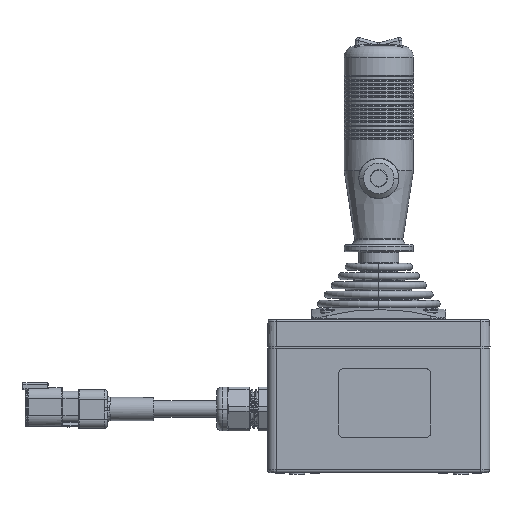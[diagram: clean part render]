
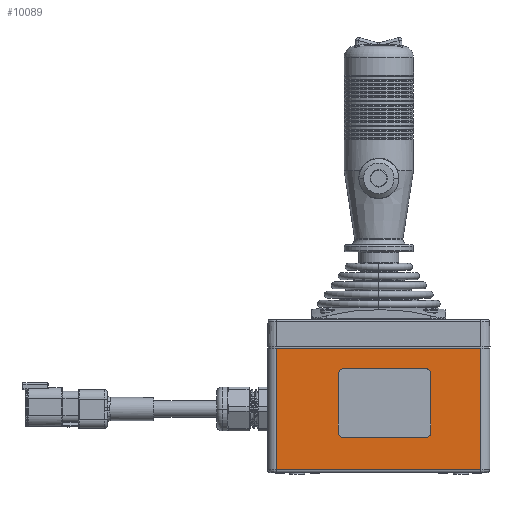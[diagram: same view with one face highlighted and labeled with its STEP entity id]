
A CAD part, front view. The second image highlights one B-rep face of the part: STEP entity #10089.
In plain terms, the highlighted planar face has unit normal (0, -1, 0).
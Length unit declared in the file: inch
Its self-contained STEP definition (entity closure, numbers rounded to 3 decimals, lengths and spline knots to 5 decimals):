
#1652 = LINE ( 'NONE', #44351, #2007 ) ;
#2007 = VECTOR ( 'NONE', #43699, 39.37008 ) ;
#3325 = EDGE_LOOP ( 'NONE', ( #42307, #30366, #5459, #36251 ) ) ;
#5459 = ORIENTED_EDGE ( 'NONE', *, *, #25320, .F. ) ;
#10046 = CARTESIAN_POINT ( 'NONE',  ( -2.20472, -2.44094, -2.69685 ) ) ;
#10089 = ADVANCED_FACE ( 'Defeatured_0_192', ( #14342 ), #33005, .F. ) ;
#10281 = CARTESIAN_POINT ( 'NONE',  ( -2.20472, -2.44094, -0.06693 ) ) ;
#12106 = CARTESIAN_POINT ( 'NONE',  ( 2.20472, -2.44094, 0. ) ) ;
#12494 = DIRECTION ( 'NONE',  ( 0., 0., -1. ) ) ;
#14326 = VERTEX_POINT ( 'NONE', #27247 ) ;
#14342 = FACE_OUTER_BOUND ( 'NONE', #3325, .T. ) ;
#15074 = LINE ( 'NONE', #19550, #30347 ) ;
#19540 = DIRECTION ( 'NONE',  ( 1., 0., 0. ) ) ;
#19550 = CARTESIAN_POINT ( 'NONE',  ( 2.20472, -2.44094, -0.06693 ) ) ;
#25320 = EDGE_CURVE ( 'Defeatured_0_183+Defeatured_0_192+Defeatured_0_197+Defeatured_0_157', #14326, #48397, #50475, .T. ) ;
#27247 = CARTESIAN_POINT ( 'NONE',  ( 2.20472, -2.44094, -0.06693 ) ) ;
#28725 = VECTOR ( 'NONE', #12494, 39.37008 ) ;
#30347 = VECTOR ( 'NONE', #19540, 39.37008 ) ;
#30366 = ORIENTED_EDGE ( 'NONE', *, *, #37248, .F. ) ;
#30972 = DIRECTION ( 'NONE',  ( 0., 0., 1. ) ) ;
#31213 = CARTESIAN_POINT ( 'NONE',  ( -2.20472, -2.44094, 0. ) ) ;
#32996 = DIRECTION ( 'NONE',  ( 0., 0., 1. ) ) ;
#33005 = PLANE ( 'NONE',  #48745 ) ;
#33118 = CARTESIAN_POINT ( 'NONE',  ( 2.20472, -2.44094, 0. ) ) ;
#33335 = DIRECTION ( 'NONE',  ( 0., 1., 0. ) ) ;
#34506 = VERTEX_POINT ( 'NONE', #10046 ) ;
#35729 = EDGE_CURVE ( 'Defeatured_0_198+Defeatured_0_192+Defeatured_0_193+Defeatured_0_197', #34506, #48821, #50938, .T. ) ;
#36251 = ORIENTED_EDGE ( 'NONE', *, *, #42541, .F. ) ;
#37178 = CARTESIAN_POINT ( 'NONE',  ( 2.20472, -2.44094, -2.69685 ) ) ;
#37248 = EDGE_CURVE ( 'Defeatured_0_160+Defeatured_0_192+Defeatured_0_157+Defeatured_0_193', #48397, #34506, #1652, .T. ) ;
#42307 = ORIENTED_EDGE ( 'NONE', *, *, #35729, .F. ) ;
#42541 = EDGE_CURVE ( 'Defeatured_0_197+Defeatured_0_192+Defeatured_0_198+Defeatured_0_183', #48821, #14326, #15074, .T. ) ;
#43699 = DIRECTION ( 'NONE',  ( -1., 0., 0. ) ) ;
#44351 = CARTESIAN_POINT ( 'NONE',  ( 2.20472, -2.44094, -2.69685 ) ) ;
#48397 = VERTEX_POINT ( 'NONE', #37178 ) ;
#48745 = AXIS2_PLACEMENT_3D ( 'NONE', #33118, #33335, #32996 ) ;
#48821 = VERTEX_POINT ( 'NONE', #10281 ) ;
#50475 = LINE ( 'NONE', #12106, #28725 ) ;
#50740 = VECTOR ( 'NONE', #30972, 39.37008 ) ;
#50938 = LINE ( 'NONE', #31213, #50740 ) ;
